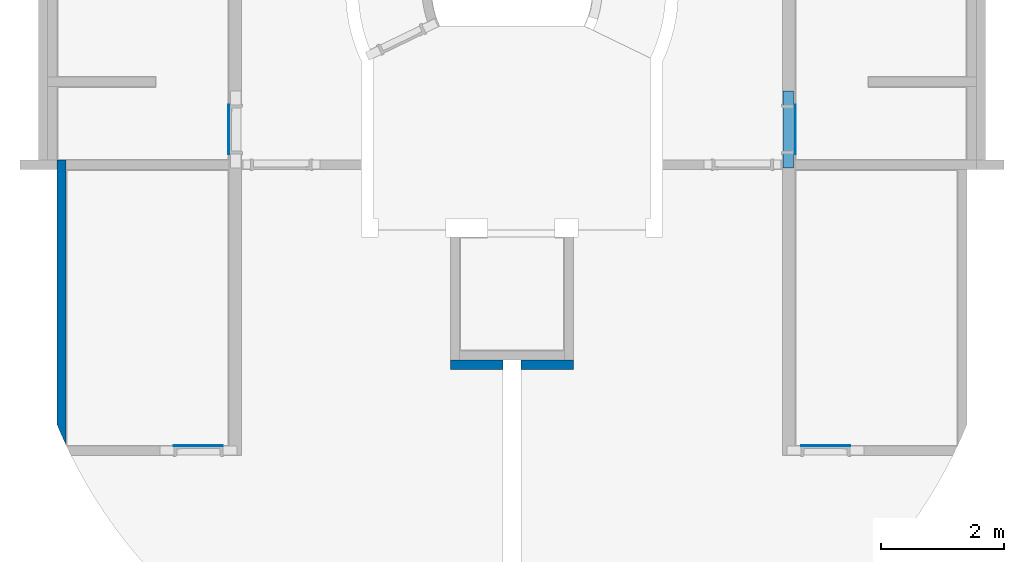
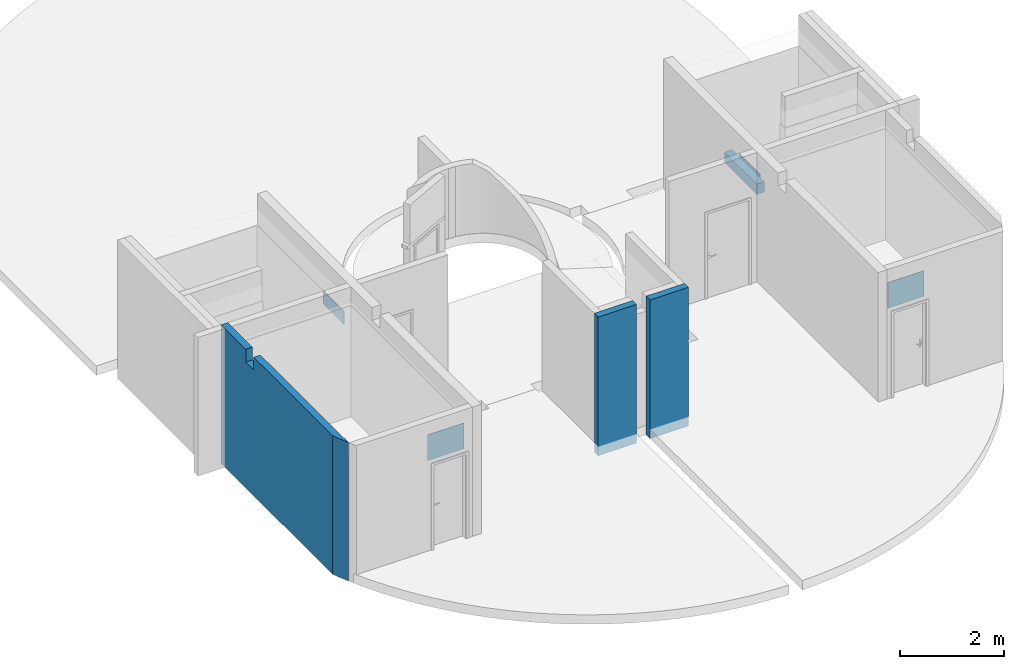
# One storey, part 6 of 21: 4 slabs, 2 walls, 1 beam.
"""IFC4 building model written with IfcOpenShell, lengths in millimetres."""

from ifc_helpers import new_model, entity, si_unit, converted_unit, derived_unit, direction, frame, origin_with_axes, place, context, subcontext, project, spatial, polygons, source, transform, mapped, material, constituent, constituent_set, type_object, element, save


model = new_model("IFC4")

# Units and contexts
model_context = context("Model", 3, precision=0.01, world=origin_with_axes(), true_north=direction((0.0, 1.0)))
body_context = subcontext(model_context, "Body", "Model", "MODEL_VIEW")
ifc_project = project(units=[si_unit("LENGTHUNIT", "METRE", prefix="MILLI"), si_unit("AREAUNIT", "SQUARE_METRE"), si_unit("VOLUMEUNIT", "CUBIC_METRE"), converted_unit("PLANEANGLEUNIT", "DEGREE", entity("IfcPlaneAngleMeasure", 0.0174532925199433), si_unit("PLANEANGLEUNIT", "RADIAN"), dimensions=[0, 0, 0, 0, 0, 0, 0]), converted_unit("TIMEUNIT", "Year", entity("IfcTimeMeasure", 31557600.0), si_unit("TIMEUNIT", "SECOND"), dimensions=[0, 0, 1, 0, 0, 0, 0]), si_unit("MASSUNIT", "GRAM", prefix="KILO"), si_unit("THERMODYNAMICTEMPERATUREUNIT", "DEGREE_CELSIUS"), si_unit("LUMINOUSINTENSITYUNIT", "LUMEN"), si_unit("ENERGYUNIT", "JOULE", prefix="MEGA"), derived_unit("THERMALCONDUCTANCEUNIT", [(si_unit("POWERUNIT", "WATT"), 1), (si_unit("LENGTHUNIT", "METRE"), -1), (si_unit("THERMODYNAMICTEMPERATUREUNIT", "KELVIN"), -1)]), derived_unit("SPECIFICHEATCAPACITYUNIT", [(si_unit("ENERGYUNIT", "JOULE"), 1), (si_unit("MASSUNIT", "GRAM", prefix="KILO"), -1), (si_unit("THERMODYNAMICTEMPERATUREUNIT", "KELVIN"), -1)]), derived_unit("MASSDENSITYUNIT", [(si_unit("MASSUNIT", "GRAM", prefix="KILO"), 1), (si_unit("VOLUMEUNIT", "CUBIC_METRE"), -1)])], contexts=[model_context])

# Site, building, storey
site_placement = place(None, origin_with_axes())
site = spatial("IfcSite", under=ifc_project, at=site_placement, Name="Exteriér", CompositionType="ELEMENT")
building_placement = place(site_placement, origin_with_axes())
building = spatial("IfcBuilding", under=site, at=building_placement, Name="Univerzitní lezecké centrum", CompositionType="ELEMENT")
storey_placement = place(building_placement, frame((0.0, 0.0, -3350.0), z_axis=(0.0, 0.0, 1.0), x_axis=(1.0, 0.0, 0.0)))
storey = spatial("IfcBuildingStorey", under=building, at=storey_placement, Name="1.PP", CompositionType="ELEMENT", Elevation=-3350.0)

# Beam
beam_type = type_object("IfcBeamType", Name="PTH Překlad KP7", PredefinedType="BEAM")
shared_shape = source(origin_with_axes(), body_context, "Body", "Tessellation", [
    polygons([(-625.0, 80.0, 0.0), (625.0, 80.0, 0.0), (625.0, 10.00000107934, 0.0), (-625.0, 10.00000107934, 0.0), (-625.0, 79.99999845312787, 17.00000071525), (625.0, 79.99999845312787, 17.00000071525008), (625.0, 30.29999809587, 16.99999709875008), (625.0, 30.29999809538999, 220.9999513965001), (625.0, 79.99999845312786, 220.9999992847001), (625.0, 79.99998239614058, 237.6644796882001), (625.0, 10.00000107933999, 237.6644745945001), (-625.0, 10.00000107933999, 237.6644745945), (-625.0, 79.99998239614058, 237.6644796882), (-625.0, 79.99999845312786, 220.9999992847), (-625.0, 30.29999809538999, 220.9999513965), (-625.0, 30.29999809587, 16.99999709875)], [[[1, 2, 3, 4]], [[5, 6, 2, 1]], [[2, 6, 7, 8, 9, 10, 11, 3]], [[4, 3, 11, 12]], [[1, 4, 12, 13, 14, 15, 16, 5]], [[16, 7, 6, 5]], [[15, 8, 7, 16]], [[14, 9, 8, 15]], [[13, 10, 9, 14]], [[12, 11, 10, 13]]], closed=True),
    polygons([(-625.0, 79.99999845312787, 17.00000071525), (625.0, 79.99999845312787, 17.00000071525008), (625.0, 30.29999809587, 16.99999709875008), (-625.0, 30.29999809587, 16.99999709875), (-625.0, 79.99999845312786, 220.9999992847), (625.0, 79.99999845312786, 220.9999992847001), (625.0, 30.29999809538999, 220.9999513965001), (625.0, 59.29999711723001, 38.99999933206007), (625.0, 59.05527973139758, 37.45491456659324), (625.0, 58.34508221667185, 36.06107346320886), (625.0, 57.23892365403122, 34.95491490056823), (625.0, 55.84508255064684, 34.24471738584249), (625.0, 54.29999778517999, 34.00000000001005), (625.0, 52.75491301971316, 34.24471738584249), (625.0, 51.36107191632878, 34.95491490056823), (625.0, 50.25491335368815, 36.06107346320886), (625.0, 49.54471583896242, 37.45491456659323), (625.0, 49.29999845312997, 38.99999933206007), (625.0, 49.54471583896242, 40.54508409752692), (625.0, 50.25491335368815, 41.93892520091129), (625.0, 51.36107191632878, 43.04508376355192), (625.0, 52.75491301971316, 43.75528127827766), (625.0, 54.29999778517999, 43.99999866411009), (625.0, 55.84508255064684, 43.75528127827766), (625.0, 57.23892365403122, 43.04508376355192), (625.0, 58.34508221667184, 41.93892520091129), (625.0, 59.05527973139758, 40.54508409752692), (625.0, 57.29984198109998, 201.0000022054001), (625.0, 57.10406902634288, 199.7639342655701), (625.0, 56.53591188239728, 198.6488609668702), (625.0, 55.65098572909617, 197.7639334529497), (625.0, 54.53591330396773, 197.1957745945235), (625.0, 53.29984566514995, 196.9999997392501), (625.0, 52.06377772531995, 197.1957726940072), (625.0, 50.94870442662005, 197.7639298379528), (625.0, 50.0637769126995, 198.648855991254), (625.0, 49.49561805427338, 199.7639284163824), (625.0, 49.29984319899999, 200.9999960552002), (625.0, 49.4956161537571, 202.2360639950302), (625.0, 50.0637732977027, 203.3511372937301), (625.0, 50.9486994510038, 204.2360648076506), (625.0, 52.06377187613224, 204.8042236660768), (625.0, 53.29983951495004, 204.9999985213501), (625.0, 54.53590745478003, 204.804225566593), (625.0, 55.65098075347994, 204.2360684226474), (625.0, 56.53590826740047, 203.3511422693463), (625.0, 57.1040671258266, 202.2360698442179), (-625.0, 30.29999809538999, 220.9999513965), (-625.0, 59.29999711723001, 38.99999933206), (-625.0, 59.05527973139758, 40.54508409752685), (-625.0, 58.34508221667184, 41.93892520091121), (-625.0, 57.23892365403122, 43.04508376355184), (-625.0, 55.84508255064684, 43.75528127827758), (-625.0, 54.29999778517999, 43.99999866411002), (-625.0, 52.75491301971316, 43.75528127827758), (-625.0, 51.36107191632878, 43.04508376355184), (-625.0, 50.25491335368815, 41.93892520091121), (-625.0, 49.54471583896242, 40.54508409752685), (-625.0, 49.29999845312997, 38.99999933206), (-625.0, 49.54471583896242, 37.45491456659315), (-625.0, 50.25491335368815, 36.06107346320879), (-625.0, 51.36107191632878, 34.95491490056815), (-625.0, 52.75491301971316, 34.24471738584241), (-625.0, 54.29999778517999, 34.00000000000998), (-625.0, 55.84508255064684, 34.24471738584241), (-625.0, 57.23892365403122, 34.95491490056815), (-625.0, 58.34508221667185, 36.06107346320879), (-625.0, 59.05527973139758, 37.45491456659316), (-625.0, 57.29984198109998, 201.0000022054), (-625.0, 57.1040671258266, 202.2360698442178), (-625.0, 56.53590826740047, 203.3511422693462), (-625.0, 55.65098075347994, 204.2360684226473), (-625.0, 54.53590745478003, 204.8042255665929), (-625.0, 53.29983951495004, 204.9999985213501), (-625.0, 52.06377187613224, 204.8042236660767), (-625.0, 50.9486994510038, 204.2360648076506), (-625.0, 50.0637732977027, 203.35113729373), (-625.0, 49.4956161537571, 202.2360639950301), (-625.0, 49.29984319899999, 200.9999960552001), (-625.0, 49.49561805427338, 199.7639284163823), (-625.0, 50.0637769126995, 198.6488559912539), (-625.0, 50.94870442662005, 197.7639298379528), (-625.0, 52.06377772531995, 197.1957726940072), (-625.0, 53.29984566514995, 196.9999997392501), (-625.0, 54.53591330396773, 197.1957745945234), (-625.0, 55.65098572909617, 197.7639334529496), (-625.0, 56.53591188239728, 198.6488609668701), (-625.0, 57.10406902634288, 199.76393426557)], [[[1, 2, 3, 4]], [[5, 6, 2, 1]], [[2, 6, 7, 3], [8, 9, 10, 11, 12, 13, 14, 15, 16, 17, 18, 19, 20, 21, 22, 23, 24, 25, 26, 27], [28, 29, 30, 31, 32, 33, 34, 35, 36, 37, 38, 39, 40, 41, 42, 43, 44, 45, 46, 47]], [[4, 3, 7, 48]], [[1, 4, 48, 5], [49, 50, 51, 52, 53, 54, 55, 56, 57, 58, 59, 60, 61, 62, 63, 64, 65, 66, 67, 68], [69, 70, 71, 72, 73, 74, 75, 76, 77, 78, 79, 80, 81, 82, 83, 84, 85, 86, 87, 88]], [[48, 7, 6, 5]], [[68, 9, 8, 49]], [[67, 10, 9, 68]], [[66, 11, 10, 67]], [[65, 12, 11, 66]], [[64, 13, 12, 65]], [[63, 14, 13, 64]], [[62, 15, 14, 63]], [[61, 16, 15, 62]], [[60, 17, 16, 61]], [[59, 18, 17, 60]], [[58, 19, 18, 59]], [[57, 20, 19, 58]], [[56, 21, 20, 57]], [[55, 22, 21, 56]], [[54, 23, 22, 55]], [[53, 24, 23, 54]], [[52, 25, 24, 53]], [[51, 26, 25, 52]], [[50, 27, 26, 51]], [[49, 8, 27, 50]], [[88, 29, 28, 69]], [[87, 30, 29, 88]], [[86, 31, 30, 87]], [[85, 32, 31, 86]], [[84, 33, 32, 85]], [[83, 34, 33, 84]], [[82, 35, 34, 83]], [[81, 36, 35, 82]], [[80, 37, 36, 81]], [[79, 38, 37, 80]], [[78, 39, 38, 79]], [[77, 40, 39, 78]], [[76, 41, 40, 77]], [[75, 42, 41, 76]], [[74, 43, 42, 75]], [[73, 44, 43, 74]], [[72, 45, 44, 73]], [[71, 46, 45, 72]], [[70, 47, 46, 71]], [[69, 28, 47, 70]]], closed=True),
    polygons([(-625.0, 59.29999910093, 39.0), (625.0, 59.29999910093, 39.00000000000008), (625.0, 59.05528168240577, 37.45491502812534), (-625.0, 59.05528168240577, 37.45491502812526), (-625.0, 59.05528168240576, 40.54508497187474), (625.0, 59.05528168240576, 40.54508497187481), (625.0, 58.34508407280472, 41.93892626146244), (625.0, 57.23892536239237, 43.04508497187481), (625.0, 55.84508407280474, 43.75528258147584), (625.0, 54.29999910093, 44.00000000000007), (625.0, 52.75491412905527, 43.75528258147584), (625.0, 51.36107283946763, 43.04508497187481), (625.0, 50.25491412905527, 41.93892626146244), (625.0, 49.54471651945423, 40.54508497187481), (625.0, 49.29999910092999, 39.00000000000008), (625.0, 49.54471651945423, 37.45491502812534), (625.0, 50.25491412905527, 36.06107373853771), (625.0, 51.36107283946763, 34.95491502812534), (625.0, 52.75491412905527, 34.2447174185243), (625.0, 54.29999910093, 34.00000000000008), (625.0, 55.84508407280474, 34.2447174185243), (625.0, 57.23892536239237, 34.95491502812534), (625.0, 58.34508407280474, 36.06107373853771), (-625.0, 58.34508407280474, 36.06107373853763), (-625.0, 57.23892536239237, 34.95491502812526), (-625.0, 55.84508407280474, 34.24471741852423), (-625.0, 54.29999910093, 34.0), (-625.0, 52.75491412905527, 34.24471741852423), (-625.0, 51.36107283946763, 34.95491502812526), (-625.0, 50.25491412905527, 36.06107373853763), (-625.0, 49.54471651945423, 37.45491502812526), (-625.0, 49.29999910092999, 39.0), (-625.0, 49.54471651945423, 40.54508497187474), (-625.0, 50.25491412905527, 41.93892626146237), (-625.0, 51.36107283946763, 43.04508497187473), (-625.0, 52.75491412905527, 43.75528258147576), (-625.0, 54.29999910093, 44.0), (-625.0, 55.84508407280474, 43.75528258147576), (-625.0, 57.23892536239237, 43.04508497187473), (-625.0, 58.34508407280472, 41.93892626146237)], [[[1, 2, 3, 4]], [[5, 6, 2, 1]], [[2, 6, 7, 8, 9, 10, 11, 12, 13, 14, 15, 16, 17, 18, 19, 20, 21, 22, 23, 3]], [[4, 3, 23, 24]], [[1, 4, 24, 25, 26, 27, 28, 29, 30, 31, 32, 33, 34, 35, 36, 37, 38, 39, 40, 5]], [[40, 7, 6, 5]], [[39, 8, 7, 40]], [[38, 9, 8, 39]], [[37, 10, 9, 38]], [[36, 11, 10, 37]], [[35, 12, 11, 36]], [[34, 13, 12, 35]], [[33, 14, 13, 34]], [[32, 15, 14, 33]], [[31, 16, 15, 32]], [[30, 17, 16, 31]], [[29, 18, 17, 30]], [[28, 19, 18, 29]], [[27, 20, 19, 28]], [[26, 21, 20, 27]], [[25, 22, 21, 26]], [[24, 23, 22, 25]]], closed=True),
    polygons([(-625.0, 49.29984384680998, 201.0), (625.0, 49.29984384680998, 201.0000000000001), (625.0, 49.49561778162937, 202.2360679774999), (-625.0, 49.49561778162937, 202.2360679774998), (-625.0, 49.49561778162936, 199.7639320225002), (625.0, 49.49561778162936, 199.7639320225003), (625.0, 50.06377586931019, 198.6488589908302), (625.0, 50.94870283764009, 197.7639320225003), (625.0, 52.0637758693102, 197.1957739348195), (625.0, 53.29984384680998, 197.0000000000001), (625.0, 54.53591182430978, 197.1957739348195), (625.0, 55.65098485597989, 197.7639320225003), (625.0, 56.53591182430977, 198.6488589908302), (625.0, 57.1040699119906, 199.7639320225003), (625.0, 57.29984384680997, 201.0000000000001), (625.0, 57.10406991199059, 202.2360679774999), (625.0, 56.53591182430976, 203.35114100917), (625.0, 55.65098485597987, 204.2360679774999), (625.0, 54.53591182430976, 204.8042260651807), (625.0, 53.29984384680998, 205.0000000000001), (625.0, 52.06377586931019, 204.8042260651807), (625.0, 50.94870283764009, 204.2360679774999), (625.0, 50.0637758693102, 203.35114100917), (-625.0, 50.0637758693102, 203.3511410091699), (-625.0, 50.94870283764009, 204.2360679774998), (-625.0, 52.06377586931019, 204.8042260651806), (-625.0, 53.29984384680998, 205.0), (-625.0, 54.53591182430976, 204.8042260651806), (-625.0, 55.65098485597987, 204.2360679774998), (-625.0, 56.53591182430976, 203.3511410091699), (-625.0, 57.10406991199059, 202.2360679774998), (-625.0, 57.29984384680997, 201.0), (-625.0, 57.1040699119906, 199.7639320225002), (-625.0, 56.53591182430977, 198.6488589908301), (-625.0, 55.65098485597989, 197.7639320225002), (-625.0, 54.53591182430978, 197.1957739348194), (-625.0, 53.29984384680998, 197.0), (-625.0, 52.0637758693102, 197.1957739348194), (-625.0, 50.94870283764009, 197.7639320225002), (-625.0, 50.06377586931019, 198.6488589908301)], [[[1, 2, 3, 4]], [[5, 6, 2, 1]], [[2, 6, 7, 8, 9, 10, 11, 12, 13, 14, 15, 16, 17, 18, 19, 20, 21, 22, 23, 3]], [[4, 3, 23, 24]], [[1, 4, 24, 25, 26, 27, 28, 29, 30, 31, 32, 33, 34, 35, 36, 37, 38, 39, 40, 5]], [[40, 7, 6, 5]], [[39, 8, 7, 40]], [[38, 9, 8, 39]], [[37, 10, 9, 38]], [[36, 11, 10, 37]], [[35, 12, 11, 36]], [[34, 13, 12, 35]], [[33, 14, 13, 34]], [[32, 15, 14, 33]], [[31, 16, 15, 32]], [[30, 17, 16, 31]], [[29, 18, 17, 30]], [[28, 19, 18, 29]], [[27, 20, 19, 28]], [[26, 21, 20, 27]], [[25, 22, 21, 26]], [[24, 23, 22, 25]]], closed=True),
    polygons([(-625.0, 80.0, 0.0), (-625.0, 110.0, 0.0), (625.0, 110.0, 0.0), (625.0, 80.0, 0.0), (-625.0, 80.00000000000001, 238.0), (-625.0, 110.0, 238.0), (625.0, 110.0, 238.0000000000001), (625.0, 80.00000000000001, 238.0000000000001)], [[[1, 2, 3, 4]], [[1, 5, 6, 2]], [[2, 6, 7, 3]], [[4, 3, 7, 8]], [[5, 1, 4, 8]], [[6, 5, 8, 7]]], closed=True),
    polygons([(-625.0, 110.0, 0.0), (-625.0, 179.99999892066, 0.0), (625.0, 179.99999892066, 0.0), (625.0, 110.0, 0.0), (-625.0, 110.0000015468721, 17.00000071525), (-625.0, 159.70000190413, 16.99999709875), (-625.0, 159.70000190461, 220.9999513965), (-625.0, 110.0000015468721, 220.9999992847), (-625.0, 110.0000176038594, 237.6644796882), (-625.0, 179.99999892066, 237.6644745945), (625.0, 179.99999892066, 237.6644745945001), (625.0, 110.0000176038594, 237.6644796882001), (625.0, 110.0000015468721, 220.9999992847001), (625.0, 159.70000190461, 220.9999513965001), (625.0, 159.70000190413, 16.99999709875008), (625.0, 110.0000015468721, 17.00000071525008)], [[[1, 2, 3, 4]], [[1, 5, 6, 7, 8, 9, 10, 2]], [[2, 10, 11, 3]], [[4, 3, 11, 12, 13, 14, 15, 16]], [[5, 1, 4, 16]], [[6, 5, 16, 15]], [[7, 6, 15, 14]], [[8, 7, 14, 13]], [[9, 8, 13, 12]], [[10, 9, 12, 11]]], closed=True),
    polygons([(-625.0, 110.0000015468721, 17.00000071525), (-625.0, 159.70000190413, 16.99999709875), (625.0, 159.70000190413, 16.99999709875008), (625.0, 110.0000015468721, 17.00000071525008), (-625.0, 110.0000015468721, 220.9999992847), (-625.0, 159.70000190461, 220.9999513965), (-625.0, 130.70000288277, 38.99999933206), (-625.0, 130.9447202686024, 37.45491456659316), (-625.0, 131.6549177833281, 36.06107346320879), (-625.0, 132.7610763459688, 34.95491490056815), (-625.0, 134.1549174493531, 34.24471738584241), (-625.0, 135.70000221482, 34.00000000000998), (-625.0, 137.2450869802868, 34.24471738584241), (-625.0, 138.6389280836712, 34.95491490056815), (-625.0, 139.7450866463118, 36.06107346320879), (-625.0, 140.4552841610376, 37.45491456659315), (-625.0, 140.70000154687, 38.99999933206), (-625.0, 140.4552841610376, 40.54508409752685), (-625.0, 139.7450866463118, 41.93892520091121), (-625.0, 138.6389280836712, 43.04508376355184), (-625.0, 137.2450869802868, 43.75528127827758), (-625.0, 135.70000221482, 43.99999866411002), (-625.0, 134.1549174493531, 43.75528127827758), (-625.0, 132.7610763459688, 43.04508376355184), (-625.0, 131.6549177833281, 41.93892520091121), (-625.0, 130.9447202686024, 40.54508409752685), (-625.0, 132.7001580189, 201.0000022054), (-625.0, 132.8959309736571, 199.76393426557), (-625.0, 133.4640881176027, 198.6488609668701), (-625.0, 134.3490142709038, 197.7639334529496), (-625.0, 135.4640866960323, 197.1957745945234), (-625.0, 136.7001543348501, 196.9999997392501), (-625.0, 137.9362222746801, 197.1957726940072), (-625.0, 139.0512955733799, 197.7639298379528), (-625.0, 139.9362230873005, 198.6488559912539), (-625.0, 140.5043819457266, 199.7639284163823), (-625.0, 140.700156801, 200.9999960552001), (-625.0, 140.5043838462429, 202.2360639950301), (-625.0, 139.9362267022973, 203.35113729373), (-625.0, 139.0513005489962, 204.2360648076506), (-625.0, 137.9362281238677, 204.8042236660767), (-625.0, 136.70016048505, 204.9999985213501), (-625.0, 135.46409254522, 204.8042255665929), (-625.0, 134.3490192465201, 204.2360684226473), (-625.0, 133.4640917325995, 203.3511422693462), (-625.0, 132.8959328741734, 202.2360698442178), (625.0, 159.70000190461, 220.9999513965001), (625.0, 110.0000015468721, 220.9999992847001), (625.0, 130.70000288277, 38.99999933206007), (625.0, 130.9447202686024, 40.54508409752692), (625.0, 131.6549177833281, 41.93892520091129), (625.0, 132.7610763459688, 43.04508376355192), (625.0, 134.1549174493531, 43.75528127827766), (625.0, 135.70000221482, 43.99999866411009), (625.0, 137.2450869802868, 43.75528127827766), (625.0, 138.6389280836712, 43.04508376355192), (625.0, 139.7450866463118, 41.93892520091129), (625.0, 140.4552841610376, 40.54508409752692), (625.0, 140.70000154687, 38.99999933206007), (625.0, 140.4552841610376, 37.45491456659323), (625.0, 139.7450866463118, 36.06107346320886), (625.0, 138.6389280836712, 34.95491490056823), (625.0, 137.2450869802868, 34.24471738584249), (625.0, 135.70000221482, 34.00000000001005), (625.0, 134.1549174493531, 34.24471738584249), (625.0, 132.7610763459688, 34.95491490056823), (625.0, 131.6549177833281, 36.06107346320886), (625.0, 130.9447202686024, 37.45491456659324), (625.0, 132.7001580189, 201.0000022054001), (625.0, 132.8959328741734, 202.2360698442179), (625.0, 133.4640917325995, 203.3511422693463), (625.0, 134.3490192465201, 204.2360684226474), (625.0, 135.46409254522, 204.804225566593), (625.0, 136.70016048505, 204.9999985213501), (625.0, 137.9362281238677, 204.8042236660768), (625.0, 139.0513005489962, 204.2360648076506), (625.0, 139.9362267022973, 203.3511372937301), (625.0, 140.5043838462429, 202.2360639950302), (625.0, 140.700156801, 200.9999960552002), (625.0, 140.5043819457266, 199.7639284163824), (625.0, 139.9362230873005, 198.648855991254), (625.0, 139.0512955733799, 197.7639298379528), (625.0, 137.9362222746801, 197.1957726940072), (625.0, 136.7001543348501, 196.9999997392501), (625.0, 135.4640866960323, 197.1957745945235), (625.0, 134.3490142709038, 197.7639334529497), (625.0, 133.4640881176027, 198.6488609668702), (625.0, 132.8959309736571, 199.7639342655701)], [[[1, 2, 3, 4]], [[1, 5, 6, 2], [7, 8, 9, 10, 11, 12, 13, 14, 15, 16, 17, 18, 19, 20, 21, 22, 23, 24, 25, 26], [27, 28, 29, 30, 31, 32, 33, 34, 35, 36, 37, 38, 39, 40, 41, 42, 43, 44, 45, 46]], [[2, 6, 47, 3]], [[4, 3, 47, 48], [49, 50, 51, 52, 53, 54, 55, 56, 57, 58, 59, 60, 61, 62, 63, 64, 65, 66, 67, 68], [69, 70, 71, 72, 73, 74, 75, 76, 77, 78, 79, 80, 81, 82, 83, 84, 85, 86, 87, 88]], [[5, 1, 4, 48]], [[6, 5, 48, 47]], [[8, 7, 49, 68]], [[9, 8, 68, 67]], [[10, 9, 67, 66]], [[11, 10, 66, 65]], [[12, 11, 65, 64]], [[13, 12, 64, 63]], [[14, 13, 63, 62]], [[15, 14, 62, 61]], [[16, 15, 61, 60]], [[17, 16, 60, 59]], [[18, 17, 59, 58]], [[19, 18, 58, 57]], [[20, 19, 57, 56]], [[21, 20, 56, 55]], [[22, 21, 55, 54]], [[23, 22, 54, 53]], [[24, 23, 53, 52]], [[25, 24, 52, 51]], [[26, 25, 51, 50]], [[7, 26, 50, 49]], [[28, 27, 69, 88]], [[29, 28, 88, 87]], [[30, 29, 87, 86]], [[31, 30, 86, 85]], [[32, 31, 85, 84]], [[33, 32, 84, 83]], [[34, 33, 83, 82]], [[35, 34, 82, 81]], [[36, 35, 81, 80]], [[37, 36, 80, 79]], [[38, 37, 79, 78]], [[39, 38, 78, 77]], [[40, 39, 77, 76]], [[41, 40, 76, 75]], [[42, 41, 75, 74]], [[43, 42, 74, 73]], [[44, 43, 73, 72]], [[45, 44, 72, 71]], [[46, 45, 71, 70]], [[27, 46, 70, 69]]], closed=True),
    polygons([(-625.0, 130.70000089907, 39.0), (-625.0, 130.9447183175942, 37.45491502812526), (625.0, 130.9447183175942, 37.45491502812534), (625.0, 130.70000089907, 39.00000000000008), (-625.0, 130.9447183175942, 40.54508497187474), (-625.0, 131.6549159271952, 41.93892626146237), (-625.0, 132.7610746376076, 43.04508497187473), (-625.0, 134.1549159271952, 43.75528258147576), (-625.0, 135.70000089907, 44.0), (-625.0, 137.2450858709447, 43.75528258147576), (-625.0, 138.6389271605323, 43.04508497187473), (-625.0, 139.7450858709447, 41.93892626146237), (-625.0, 140.4552834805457, 40.54508497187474), (-625.0, 140.70000089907, 39.0), (-625.0, 140.4552834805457, 37.45491502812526), (-625.0, 139.7450858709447, 36.06107373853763), (-625.0, 138.6389271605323, 34.95491502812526), (-625.0, 137.2450858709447, 34.24471741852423), (-625.0, 135.70000089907, 34.0), (-625.0, 134.1549159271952, 34.24471741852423), (-625.0, 132.7610746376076, 34.95491502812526), (-625.0, 131.6549159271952, 36.06107373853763), (625.0, 131.6549159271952, 36.06107373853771), (625.0, 132.7610746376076, 34.95491502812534), (625.0, 134.1549159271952, 34.2447174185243), (625.0, 135.70000089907, 34.00000000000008), (625.0, 137.2450858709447, 34.2447174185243), (625.0, 138.6389271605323, 34.95491502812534), (625.0, 139.7450858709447, 36.06107373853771), (625.0, 140.4552834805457, 37.45491502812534), (625.0, 140.70000089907, 39.00000000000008), (625.0, 140.4552834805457, 40.54508497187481), (625.0, 139.7450858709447, 41.93892626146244), (625.0, 138.6389271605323, 43.04508497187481), (625.0, 137.2450858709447, 43.75528258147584), (625.0, 135.70000089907, 44.00000000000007), (625.0, 134.1549159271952, 43.75528258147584), (625.0, 132.7610746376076, 43.04508497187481), (625.0, 131.6549159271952, 41.93892626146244), (625.0, 130.9447183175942, 40.54508497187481)], [[[1, 2, 3, 4]], [[1, 5, 6, 7, 8, 9, 10, 11, 12, 13, 14, 15, 16, 17, 18, 19, 20, 21, 22, 2]], [[2, 22, 23, 3]], [[4, 3, 23, 24, 25, 26, 27, 28, 29, 30, 31, 32, 33, 34, 35, 36, 37, 38, 39, 40]], [[5, 1, 4, 40]], [[6, 5, 40, 39]], [[7, 6, 39, 38]], [[8, 7, 38, 37]], [[9, 8, 37, 36]], [[10, 9, 36, 35]], [[11, 10, 35, 34]], [[12, 11, 34, 33]], [[13, 12, 33, 32]], [[14, 13, 32, 31]], [[15, 14, 31, 30]], [[16, 15, 30, 29]], [[17, 16, 29, 28]], [[18, 17, 28, 27]], [[19, 18, 27, 26]], [[20, 19, 26, 25]], [[21, 20, 25, 24]], [[22, 21, 24, 23]]], closed=True),
    polygons([(-625.0, 140.70015615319, 201.0), (-625.0, 140.5043822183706, 202.2360679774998), (625.0, 140.5043822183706, 202.2360679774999), (625.0, 140.70015615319, 201.0000000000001), (-625.0, 140.5043822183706, 199.7639320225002), (-625.0, 139.9362241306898, 198.6488589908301), (-625.0, 139.0512971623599, 197.7639320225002), (-625.0, 137.9362241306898, 197.1957739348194), (-625.0, 136.70015615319, 197.0), (-625.0, 135.4640881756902, 197.1957739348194), (-625.0, 134.3490151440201, 197.7639320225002), (-625.0, 133.4640881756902, 198.6488589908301), (-625.0, 132.8959300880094, 199.7639320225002), (-625.0, 132.70015615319, 201.0), (-625.0, 132.8959300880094, 202.2360679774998), (-625.0, 133.4640881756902, 203.3511410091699), (-625.0, 134.3490151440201, 204.2360679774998), (-625.0, 135.4640881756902, 204.8042260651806), (-625.0, 136.70015615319, 205.0), (-625.0, 137.9362241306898, 204.8042260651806), (-625.0, 139.0512971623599, 204.2360679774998), (-625.0, 139.9362241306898, 203.3511410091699), (625.0, 139.9362241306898, 203.35114100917), (625.0, 139.0512971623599, 204.2360679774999), (625.0, 137.9362241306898, 204.8042260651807), (625.0, 136.70015615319, 205.0000000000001), (625.0, 135.4640881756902, 204.8042260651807), (625.0, 134.3490151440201, 204.2360679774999), (625.0, 133.4640881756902, 203.35114100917), (625.0, 132.8959300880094, 202.2360679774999), (625.0, 132.70015615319, 201.0000000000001), (625.0, 132.8959300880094, 199.7639320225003), (625.0, 133.4640881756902, 198.6488589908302), (625.0, 134.3490151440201, 197.7639320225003), (625.0, 135.4640881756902, 197.1957739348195), (625.0, 136.70015615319, 197.0000000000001), (625.0, 137.9362241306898, 197.1957739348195), (625.0, 139.0512971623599, 197.7639320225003), (625.0, 139.9362241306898, 198.6488589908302), (625.0, 140.5043822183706, 199.7639320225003)], [[[1, 2, 3, 4]], [[1, 5, 6, 7, 8, 9, 10, 11, 12, 13, 14, 15, 16, 17, 18, 19, 20, 21, 22, 2]], [[2, 22, 23, 3]], [[4, 3, 23, 24, 25, 26, 27, 28, 29, 30, 31, 32, 33, 34, 35, 36, 37, 38, 39, 40]], [[5, 1, 4, 40]], [[6, 5, 40, 39]], [[7, 6, 39, 38]], [[8, 7, 38, 37]], [[9, 8, 37, 36]], [[10, 9, 36, 35]], [[11, 10, 35, 34]], [[12, 11, 34, 33]], [[13, 12, 33, 32]], [[14, 13, 32, 31]], [[15, 14, 31, 30]], [[16, 15, 30, 29]], [[17, 16, 29, 28]], [[18, 17, 28, 27]], [[19, 18, 27, 26]], [[20, 19, 26, 25]], [[21, 20, 25, 24]], [[22, 21, 24, 23]]], closed=True),
])
beam_placement = place(storey_placement, frame((6850.112166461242, 1449.999999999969, 2026.0), z_axis=(0.0, 0.0, 1.0), x_axis=(0.0, -1.0, 0.0)))
element("IfcBeam", 1, at=beam_placement, inside=storey, type_object=beam_type, Name="Pk03", PredefinedType="BEAM", context=body_context, shape_type="MappedRepresentation", body=[
    mapped(shared_shape, transform((0.0, 0.0, 0.0))),
])

# Slabs
ifc_material_1 = material(Name="Keramická dlažba 20x40 - obklad")
slab_type_1 = type_object("IfcSlabType", Name="Keramická dlažba 20x40 - obklad 300", PredefinedType="FLOOR")
slab_1_placement = place(storey_placement, frame((-2165.178937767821, 1050.000016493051, 2300.0), z_axis=(0.0, 0.0, 1.0), x_axis=(1.0, 0.0, 0.0)))
element("IfcSlab", 2, at=slab_1_placement, inside=storey, type_object=slab_type_1, material=ifc_material_1, PredefinedType="FLOOR", context=body_context, shape_type="Tessellation", body=[
    polygons([(0.0, 0.0, 0.0), (0.0, 0.0, -300.0000000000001), (15.00000195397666, 0.0, -300.0000000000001), (15.00000195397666, 0.0, 0.0), (0.0, 800.0000051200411, 0.0), (0.0, 800.0000051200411, -300.0000000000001), (15.00000195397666, 800.0000051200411, -300.0000000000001), (15.00000195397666, 800.0000051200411, 0.0)], [[[1, 2, 3, 4]], [[5, 6, 2, 1]], [[3, 2, 6, 7]], [[4, 3, 7, 8]], [[5, 1, 4, 8]], [[8, 7, 6, 5]]], closed=True),
])
slab_2_placement = place(storey_placement, frame((7049.776494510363, 1049.736260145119, 2300.0), z_axis=(0.0, 0.0, 1.0), x_axis=(1.0, 0.0, 0.0)))
element("IfcSlab", 3, at=slab_2_placement, inside=storey, type_object=slab_type_1, material=ifc_material_1, PredefinedType="FLOOR", context=body_context, shape_type="Tessellation", body=[
    polygons([(0.0, 0.0, 0.0), (0.0, 0.0, -300.0000000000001), (15.0000019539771, 0.0, -300.0000000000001), (15.0000019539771, 0.0, 0.0), (0.0, 800.0000051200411, 0.0), (0.0, 800.0000051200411, -300.0000000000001), (15.0000019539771, 800.0000051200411, -300.0000000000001), (15.0000019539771, 800.0000051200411, 0.0)], [[[1, 2, 3, 4]], [[5, 6, 2, 1]], [[3, 2, 6, 7]], [[4, 3, 7, 8]], [[5, 1, 4, 8]], [[8, 7, 6, 5]]], closed=True),
])
slab_type_2 = type_object("IfcSlabType", Name="Keramická dlažba 20x40 - obklad 600", PredefinedType="FLOOR")
slab_3_placement = place(storey_placement, frame((-3051.935016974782, -3699.999999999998, 2600.0), z_axis=(0.0, 0.0, 1.0), x_axis=(1.0, 0.0, 0.0)))
element("IfcSlab", 4, at=slab_3_placement, inside=storey, type_object=slab_type_2, material=ifc_material_1, PredefinedType="FLOOR", context=body_context, shape_type="Tessellation", body=[
    polygons([(0.0, 0.0, 0.0), (0.0, 0.0, -600.0), (799.9999776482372, 0.0, -600.0), (799.9999776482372, 0.0, 0.0), (0.0, 15.00000000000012, 0.0), (0.0, 15.00000000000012, -600.0), (799.9999776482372, 15.00000000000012, -600.0), (799.9999776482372, 15.00000000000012, 0.0)], [[[1, 2, 3, 4]], [[5, 6, 2, 1]], [[3, 2, 6, 7]], [[4, 3, 7, 8]], [[5, 1, 4, 8]], [[8, 7, 6, 5]]], closed=True),
])
slab_4_placement = place(storey_placement, frame((7149.638343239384, -3700.000000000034, 2600.0), z_axis=(0.0, 0.0, 1.0), x_axis=(1.0, 0.0, 0.0)))
element("IfcSlab", 5, at=slab_4_placement, inside=storey, type_object=slab_type_2, material=ifc_material_1, PredefinedType="FLOOR", context=body_context, shape_type="Tessellation", body=[
    polygons([(0.0, 0.0, 0.0), (0.0, 0.0, -600.0), (799.9999776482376, 0.0, -600.0), (799.9999776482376, 0.0, 0.0), (0.0, 15.00000000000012, 0.0), (0.0, 15.00000000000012, -600.0), (799.9999776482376, 15.00000000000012, -600.0), (799.9999776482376, 15.00000000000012, 0.0)], [[[1, 2, 3, 4]], [[5, 6, 2, 1]], [[3, 2, 6, 7]], [[4, 3, 7, 8]], [[5, 1, 4, 8]], [[8, 7, 6, 5]]], closed=True),
])

# Walls
ifc_material_2 = material(Name="Keramické tvárnice nenosné tl. 150 mm")
ifc_constituent_1 = constituent(ifc_material_2, Name="Keramické tvárnice nenosné tl. 150 mm")
ifc_constituent_set_1 = constituent_set(constituents=[ifc_constituent_1], Name="!Vnitřní keramická stěna 150 mm - nenosná*")
wall_type_1 = type_object("IfcWallType", Name="!Vnitřní keramická stěna 150 mm - nenosná* 150", PredefinedType="NOTDEFINED")
wall_1_placement = place(storey_placement, frame((-4950.148351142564, 950.0000000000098, -220.0000000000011), z_axis=(0.0, 0.0, 1.0), x_axis=(0.0, -1.0, 0.0)))
element("IfcWall", 6, at=wall_1_placement, inside=storey, type_object=wall_type_1, material=ifc_constituent_set_1, Name="St07*", PredefinedType="NOTDEFINED", context=body_context, shape_type="Tessellation", body=[
    polygons([(949.9999999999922, 0.0, 3250.0), (949.9999999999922, 150.0000000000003, 3250.0), (0.0, 150.0000000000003, 3250.0), (0.0, 0.0, 3250.0), (949.9999999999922, 150.0000000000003, 2950.0), (949.9999999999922, 0.0, 2950.0), (1249.999999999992, 150.0000000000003, 2950.0), (1249.999999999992, 150.0000000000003, 3250.0), (4633.002595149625, 150.0000000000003, 3250.000000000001), (4633.002595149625, 150.0000000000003, 0.0), (0.0, 150.0000000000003, 0.0), (0.0, 0.0, 0.0), (4289.742274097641, 0.0, 0.0), (4289.742274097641, 0.0, 3250.000000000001), (1249.999999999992, 0.0, 3250.0), (1249.999999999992, 0.0, 2950.0), (4426.380244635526, 56.24246335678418, 3250.000000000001), (4426.380244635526, 56.24246335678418, 0.0)], [[[1, 2, 3, 4]], [[5, 2, 1, 6]], [[7, 8, 9, 10, 11, 3, 2, 5]], [[12, 4, 3, 11]], [[6, 1, 4, 12, 13, 14, 15, 16]], [[7, 5, 6, 16]], [[15, 8, 7, 16]], [[8, 15, 14, 17, 9]], [[18, 10, 9, 17]], [[10, 18, 13, 12, 11]], [[18, 17, 14, 13]]], closed=True),
])
ifc_constituent_2 = constituent(ifc_material_2, Name="Keramické tvárnice nenosné tl. 150 mm")
ifc_constituent_set_2 = constituent_set(constituents=[ifc_constituent_2], Name="!Vnitřní keramická stěna 150 mm - nenosná s omítkou")
wall_type_2 = type_object("IfcWallType", Name="!Vnitřní keramická stěna 150 mm - nenosná s omítkou 150", PredefinedType="NOTDEFINED")
wall_2_placement = place(storey_placement, frame((1449.851648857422, -2449.739482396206, -220.0000000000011), z_axis=(0.0, 0.0, 1.0), x_axis=(1.0, 0.0, 0.0)))
element("IfcWall", 7, at=wall_2_placement, inside=storey, type_object=wall_type_2, material=ifc_constituent_set_2, Name="St08*", PredefinedType="NOTDEFINED", context=body_context, shape_type="Tessellation", body=[
    polygons([(1999.999999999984, 150.0000000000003, 3250.000000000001), (1150.000000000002, 150.0000000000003, 3250.000000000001), (1150.000000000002, 0.0, 3250.000000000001), (1999.999999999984, 0.0, 3250.000000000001), (1999.999999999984, 150.0000000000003, 0.0), (1150.000000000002, 150.0000000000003, 0.0), (1150.000000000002, 0.0, 0.0), (1999.999999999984, 0.0, 0.0)], [[[1, 2, 3, 4]], [[5, 6, 2, 1]], [[3, 2, 6, 7]], [[4, 3, 7, 8]], [[4, 8, 5, 1]], [[8, 7, 6, 5]]], closed=True),
    polygons([(850.0000000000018, 150.0000000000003, 3250.000000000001), (0.0, 150.0000000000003, 3250.000000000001), (0.0, 0.0, 3250.000000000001), (850.0000000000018, 0.0, 3250.000000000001), (850.0000000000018, 149.9999999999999, 0.0), (0.0, 149.9999999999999, 0.0), (0.0, 0.0, 0.0), (850.0000000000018, 0.0, 0.0)], [[[1, 2, 3, 4]], [[5, 6, 2, 1]], [[3, 2, 6, 7]], [[4, 3, 7, 8]], [[4, 8, 5, 1]], [[8, 7, 6, 5]]], closed=True),
])

save(model, "model.ifc")
